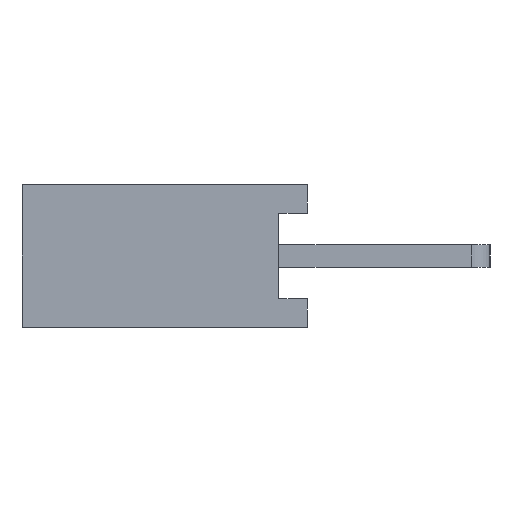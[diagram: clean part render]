
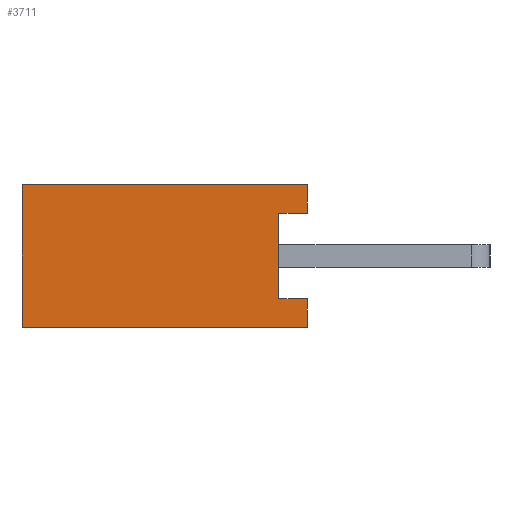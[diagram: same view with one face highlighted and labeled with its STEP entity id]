
A CAD part, left-side view. The second image highlights one B-rep face of the part: STEP entity #3711.
In plain terms, the highlighted planar face has unit normal (-1, 0, 0).
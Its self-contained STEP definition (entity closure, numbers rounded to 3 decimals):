
#43 = DIRECTION ( 'NONE',  ( 0., -1., 0. ) ) ;
#70 = AXIS2_PLACEMENT_3D ( 'NONE', #3035, #481, #6564 ) ;
#342 = LINE ( 'NONE', #5370, #3861 ) ;
#349 = CARTESIAN_POINT ( 'NONE',  ( -6.35, 0., 0.02 ) ) ;
#374 = EDGE_CURVE ( 'NONE', #5385, #3999, #3840, .T. ) ;
#443 = EDGE_CURVE ( 'NONE', #4319, #5991, #4538, .T. ) ;
#481 = DIRECTION ( 'NONE',  ( -1., 0., 0. ) ) ;
#511 = EDGE_CURVE ( 'NONE', #1754, #1558, #2075, .T. ) ;
#579 = FACE_OUTER_BOUND ( 'NONE', #1025, .T. ) ;
#611 = ORIENTED_EDGE ( 'NONE', *, *, #2656, .F. ) ;
#822 = DIRECTION ( 'NONE',  ( 0., 1., 0. ) ) ;
#922 = VECTOR ( 'NONE', #6408, 1000. ) ;
#923 = ORIENTED_EDGE ( 'NONE', *, *, #511, .T. ) ;
#1025 = EDGE_LOOP ( 'NONE', ( #6311, #2949, #923, #3156, #611, #3831, #2735, #1159 ) ) ;
#1157 = LINE ( 'NONE', #6203, #3886 ) ;
#1159 = ORIENTED_EDGE ( 'NONE', *, *, #443, .F. ) ;
#1321 = VECTOR ( 'NONE', #822, 1000. ) ;
#1474 = VERTEX_POINT ( 'NONE', #3211 ) ;
#1558 = VERTEX_POINT ( 'NONE', #349 ) ;
#1754 = VERTEX_POINT ( 'NONE', #2147 ) ;
#2075 = LINE ( 'NONE', #5557, #5879 ) ;
#2147 = CARTESIAN_POINT ( 'NONE',  ( -6.35, 0., -0.48 ) ) ;
#2402 = CARTESIAN_POINT ( 'NONE',  ( -6.35, 0., 0.02 ) ) ;
#2542 = PLANE ( 'NONE',  #70 ) ;
#2656 = EDGE_CURVE ( 'NONE', #3999, #1474, #3686, .T. ) ;
#2677 = DIRECTION ( 'NONE',  ( 0., 0., -1. ) ) ;
#2735 = ORIENTED_EDGE ( 'NONE', *, *, #3063, .T. ) ;
#2743 = CARTESIAN_POINT ( 'NONE',  ( -6.35, 5., -5. ) ) ;
#2837 = DIRECTION ( 'NONE',  ( 0., 0., 1. ) ) ;
#2899 = CARTESIAN_POINT ( 'NONE',  ( -6.35, 0., -1.98 ) ) ;
#2949 = ORIENTED_EDGE ( 'NONE', *, *, #5577, .F. ) ;
#3035 = CARTESIAN_POINT ( 'NONE',  ( -6.35, 0., -5. ) ) ;
#3063 = EDGE_CURVE ( 'NONE', #5385, #5991, #342, .T. ) ;
#3132 = CARTESIAN_POINT ( 'NONE',  ( -6.35, 0., -1.98 ) ) ;
#3156 = ORIENTED_EDGE ( 'NONE', *, *, #5207, .T. ) ;
#3211 = CARTESIAN_POINT ( 'NONE',  ( -6.35, 5., 0.02 ) ) ;
#3337 = VECTOR ( 'NONE', #43, 1000. ) ;
#3686 = LINE ( 'NONE', #2743, #5773 ) ;
#3711 = ADVANCED_FACE ( 'NONE', ( #579 ), #2542, .T. ) ;
#3831 = ORIENTED_EDGE ( 'NONE', *, *, #374, .F. ) ;
#3840 = LINE ( 'NONE', #5861, #1321 ) ;
#3861 = VECTOR ( 'NONE', #2837, 1000. ) ;
#3886 = VECTOR ( 'NONE', #2677, 1000. ) ;
#3999 = VERTEX_POINT ( 'NONE', #5974 ) ;
#4077 = EDGE_CURVE ( 'NONE', #4929, #4319, #1157, .T. ) ;
#4319 = VERTEX_POINT ( 'NONE', #4413 ) ;
#4413 = CARTESIAN_POINT ( 'NONE',  ( -6.35, 0.5, -1.98 ) ) ;
#4538 = LINE ( 'NONE', #3132, #3337 ) ;
#4604 = CARTESIAN_POINT ( 'NONE',  ( -6.35, 0.5, -0.48 ) ) ;
#4815 = CARTESIAN_POINT ( 'NONE',  ( -6.35, 0., -0.48 ) ) ;
#4923 = DIRECTION ( 'NONE',  ( 0., 1., 0. ) ) ;
#4929 = VERTEX_POINT ( 'NONE', #4604 ) ;
#5207 = EDGE_CURVE ( 'NONE', #1558, #1474, #5456, .T. ) ;
#5370 = CARTESIAN_POINT ( 'NONE',  ( -6.35, 0., -2.46 ) ) ;
#5385 = VERTEX_POINT ( 'NONE', #6309 ) ;
#5456 = LINE ( 'NONE', #2402, #6326 ) ;
#5557 = CARTESIAN_POINT ( 'NONE',  ( -6.35, 0., -5. ) ) ;
#5577 = EDGE_CURVE ( 'NONE', #1754, #4929, #5912, .T. ) ;
#5595 = DIRECTION ( 'NONE',  ( 0., 0., 1. ) ) ;
#5773 = VECTOR ( 'NONE', #6268, 1000. ) ;
#5861 = CARTESIAN_POINT ( 'NONE',  ( -6.35, 0., -2.48 ) ) ;
#5879 = VECTOR ( 'NONE', #5595, 1000. ) ;
#5912 = LINE ( 'NONE', #4815, #922 ) ;
#5974 = CARTESIAN_POINT ( 'NONE',  ( -6.35, 5., -2.48 ) ) ;
#5991 = VERTEX_POINT ( 'NONE', #2899 ) ;
#6203 = CARTESIAN_POINT ( 'NONE',  ( -6.35, 0.5, 1.441 ) ) ;
#6268 = DIRECTION ( 'NONE',  ( 0., 0., 1. ) ) ;
#6309 = CARTESIAN_POINT ( 'NONE',  ( -6.35, 0., -2.48 ) ) ;
#6311 = ORIENTED_EDGE ( 'NONE', *, *, #4077, .F. ) ;
#6326 = VECTOR ( 'NONE', #4923, 1000. ) ;
#6408 = DIRECTION ( 'NONE',  ( 0., 1., 0. ) ) ;
#6564 = DIRECTION ( 'NONE',  ( 0., 0., 1. ) ) ;
